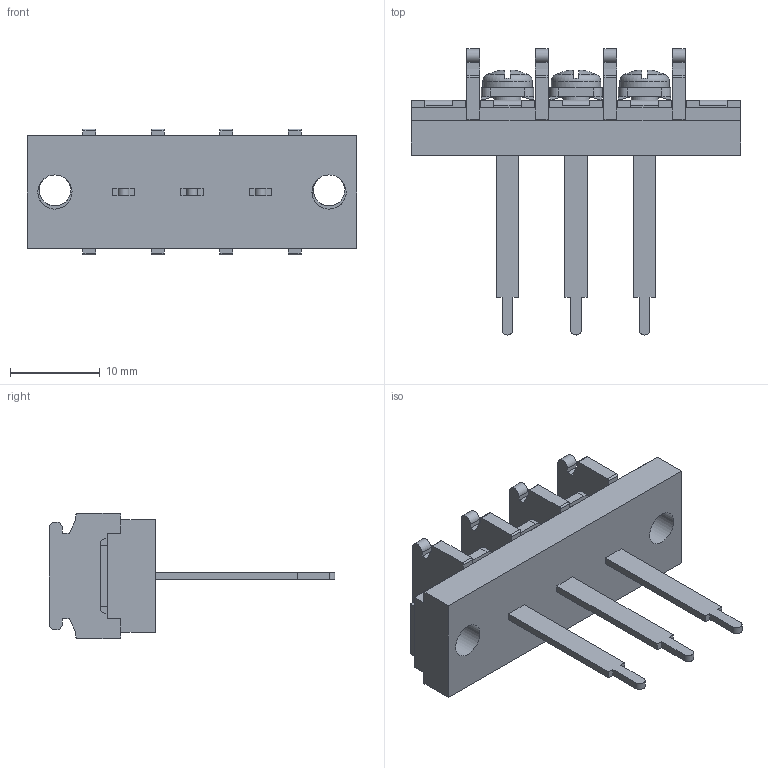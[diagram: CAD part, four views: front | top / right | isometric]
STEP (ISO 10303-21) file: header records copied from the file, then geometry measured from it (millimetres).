
FILE_DESCRIPTION(/* description */ ('Alibre Inc.'),/* implementation_level */ '2;1');
FILE_NAME(/* name */ 'export0',/* time_stamp */ '2015-10-26T16:25:05+09:00',/* author */ (''),/* organization */ (''),/* preprocessor_version */ 'ST-DEVELOPER v14',/* originating_system */ 'Alibre',/* authorisation */ '');
FILE_SCHEMA (('CONFIG_CONTROL_DESIGN'));
Length unit declared in the file: centimetre
Products named in the file (1): ID_1
Bounding box: 36.68 x 31.8 x 14 mm (x, y, z)
Volume: 3159.4 mm3; surface area: 3301.6 mm2
Topology: 1 solids, 17 shells, 800 faces, 2146 edges, 1414 vertices
Faces by surface type: plane 613, bspline 104, cylinder 59, cone 12, torus 6, sphere 6
Full cylindrical faces by diameter (mm): 3 x3, 3.5 x2, 3.8 x2, 5.5 x3
Entity records: 23797 total; most frequent: CARTESIAN_POINT 5348, ORIENTED_EDGE 4240, DIRECTION 2765, EDGE_CURVE 2120, VECTOR 1604, LINE 1604, VERTEX_POINT 1404, AXIS2_PLACEMENT_3D 864
